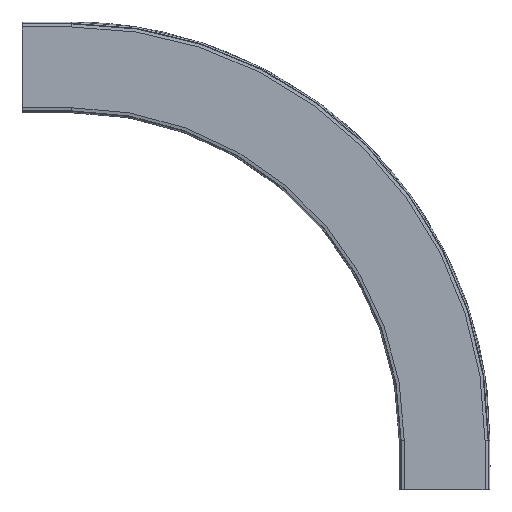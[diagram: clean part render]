
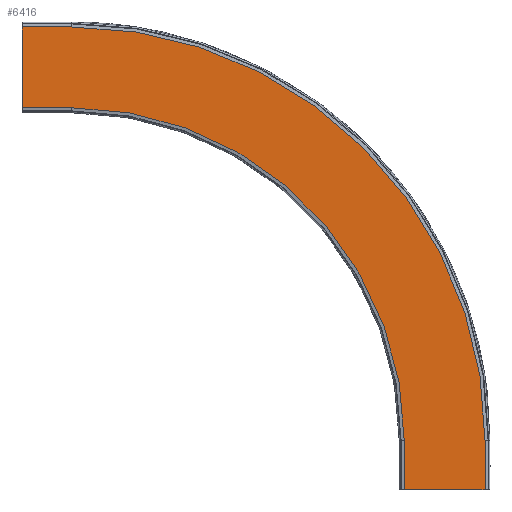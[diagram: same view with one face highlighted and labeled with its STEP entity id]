
A CAD part, front view. The second image highlights one B-rep face of the part: STEP entity #6416.
In plain terms, the highlighted planar face has unit normal (0, -1, 0).
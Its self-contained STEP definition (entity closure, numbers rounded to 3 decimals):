
#6173=CARTESIAN_POINT('',(104.,-74.,0.0));
#6174=VERTEX_POINT('',#6173);
#6181=CARTESIAN_POINT('',(-26.,-74.,0.0));
#6182=VERTEX_POINT('',#6181);
#6183=CARTESIAN_POINT('',(-26.,-74.,0.0));
#6184=DIRECTION('',(1.0,0.0,0.0));
#6185=VECTOR('',#6184,130.);
#6186=LINE('',#6183,#6185);
#6187=EDGE_CURVE('',#6182,#6174,#6186,.T.);
#6242=CARTESIAN_POINT('',(-26.,-74.,80.0));
#6243=VERTEX_POINT('',#6242);
#6252=CARTESIAN_POINT('',(-26.,-74.,0.0));
#6253=DIRECTION('',(0.0,0.0,1.0));
#6254=VECTOR('',#6253,80.0);
#6255=LINE('',#6252,#6254);
#6256=EDGE_CURVE('',#6182,#6243,#6255,.T.);
#6266=CARTESIAN_POINT('',(104.,-74.,80.0));
#6267=VERTEX_POINT('',#6266);
#6276=CARTESIAN_POINT('',(104.,-74.,0.0));
#6277=DIRECTION('',(0.0,0.0,1.0));
#6278=VECTOR('',#6277,80.0);
#6279=LINE('',#6276,#6278);
#6280=EDGE_CURVE('',#6174,#6267,#6279,.T.);
#6299=CARTESIAN_POINT('',(-561.,-74.,615.));
#6300=VERTEX_POINT('',#6299);
#6315=CARTESIAN_POINT('',(-561.,-74.,80.0));
#6316=DIRECTION('',(0.0,-1.0,0.0));
#6317=DIRECTION('',(1.0,0.0,0.0));
#6318=AXIS2_PLACEMENT_3D('',#6315,#6316,#6317);
#6319=CIRCLE('',#6318,535.);
#6320=EDGE_CURVE('',#6243,#6300,#6319,.T.);
#6374=CARTESIAN_POINT('',(461.478,-74.,745.));
#6375=DIRECTION('',(0.0,-1.0,0.0));
#6376=DIRECTION('',(1.0,0.0,0.0));
#6377=AXIS2_PLACEMENT_3D('',#6374,#6375,#6376);
#6378=PLANE('',#6377);
#6379=CARTESIAN_POINT('',(-641.,-74.,745.));
#6380=VERTEX_POINT('',#6379);
#6381=CARTESIAN_POINT('',(-641.,-74.,615.));
#6382=VERTEX_POINT('',#6381);
#6383=CARTESIAN_POINT('',(-641.,-74.,745.));
#6384=DIRECTION('',(0.0,0.0,-1.0));
#6385=VECTOR('',#6384,130.);
#6386=LINE('',#6383,#6385);
#6387=EDGE_CURVE('',#6380,#6382,#6386,.T.);
#6388=ORIENTED_EDGE('',*,*,#6387,.T.);
#6389=CARTESIAN_POINT('',(-561.,-74.,615.));
#6390=DIRECTION('',(-1.0,0.0,0.0));
#6391=VECTOR('',#6390,80.0);
#6392=LINE('',#6389,#6391);
#6393=EDGE_CURVE('',#6300,#6382,#6392,.T.);
#6394=ORIENTED_EDGE('',*,*,#6393,.F.);
#6395=ORIENTED_EDGE('',*,*,#6320,.F.);
#6396=ORIENTED_EDGE('',*,*,#6256,.F.);
#6397=ORIENTED_EDGE('',*,*,#6187,.T.);
#6398=ORIENTED_EDGE('',*,*,#6280,.T.);
#6399=CARTESIAN_POINT('',(-561.,-74.,745.));
#6400=VERTEX_POINT('',#6399);
#6401=CARTESIAN_POINT('',(-561.,-74.,80.0));
#6402=DIRECTION('',(0.0,-1.0,0.0));
#6403=DIRECTION('',(1.0,0.0,0.0));
#6404=AXIS2_PLACEMENT_3D('',#6401,#6402,#6403);
#6405=CIRCLE('',#6404,665.);
#6406=EDGE_CURVE('',#6267,#6400,#6405,.T.);
#6407=ORIENTED_EDGE('',*,*,#6406,.T.);
#6408=CARTESIAN_POINT('',(-561.,-74.,745.));
#6409=DIRECTION('',(-1.0,0.0,0.0));
#6410=VECTOR('',#6409,80.0);
#6411=LINE('',#6408,#6410);
#6412=EDGE_CURVE('',#6400,#6380,#6411,.T.);
#6413=ORIENTED_EDGE('',*,*,#6412,.T.);
#6414=EDGE_LOOP('',(#6388,#6394,#6395,#6396,#6397,#6398,#6407,#6413));
#6415=FACE_OUTER_BOUND('',#6414,.T.);
#6416=ADVANCED_FACE('',(#6415),#6378,.T.);
